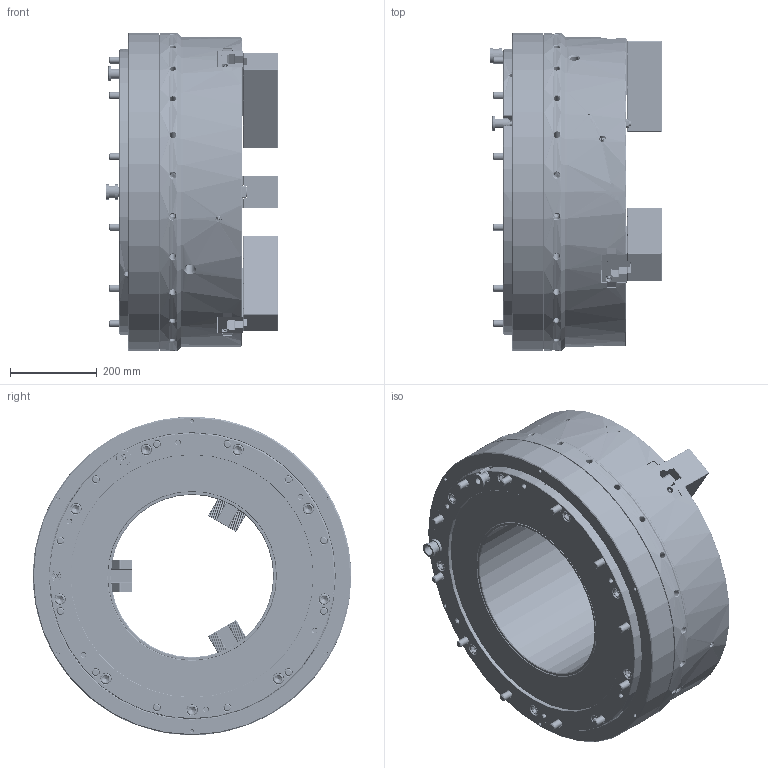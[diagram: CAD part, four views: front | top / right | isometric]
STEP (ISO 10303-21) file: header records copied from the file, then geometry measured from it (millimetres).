
FILE_DESCRIPTION (( 'STEP AP214' ), '1' );
FILE_NAME ('UPR710A375_OC.STEP', '2025-10-15T04:46:50', ( '' ), ( '' ), 'SwSTEP 2.0', 'SolidWorks 2022', '' );
FILE_SCHEMA (( 'AUTOMOTIVE_DESIGN' ));
Length unit declared in the file: millimetre
Products named in the file (5): 61P858712; 0030124060; UPR710A375__X2_672c4f53_X0_; UPR710A375_OC; 61P446153
Assembly tree (16 placements, depth 2):
  UPR710A375_OC
    61P858712  x3
    61P446153  x6
    0030124060  x6
    UPR710A375__X2_672c4f53_X0_
Bounding box: 396.3 x 735 x 735 mm (x, y, z)
Volume: 84409652.9 mm3; surface area: 3605037.8 mm2
Topology: 17 solids, 24 shells, 10166 faces, 28182 edges, 18428 vertices
Faces by surface type: plane 5491, cylinder 2535, bspline 1179, cone 961
Entity records: 312451 total; most frequent: CARTESIAN_POINT 109458, ORIENTED_EDGE 43812, DIRECTION 32959, EDGE_CURVE 21906, VERTEX_POINT 14367, VECTOR 14317, LINE 14317, AXIS2_PLACEMENT_3D 9321
